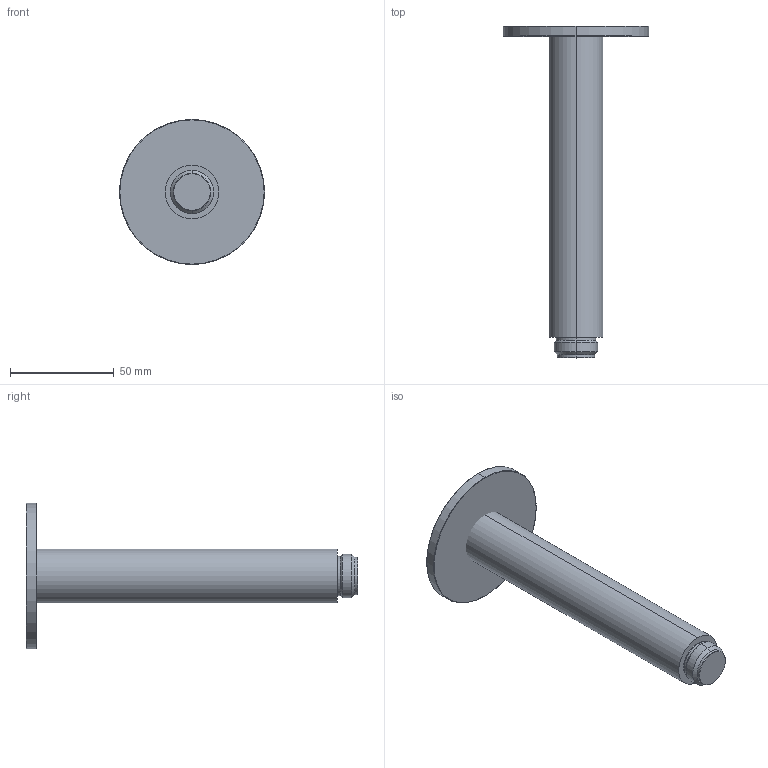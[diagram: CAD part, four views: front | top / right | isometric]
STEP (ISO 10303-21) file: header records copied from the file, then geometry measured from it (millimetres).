
FILE_DESCRIPTION((''),'2;1');
FILE_NAME('76618--00_SW0001','2026-10-06T10:35:02',('simi1'),(''),'CREO PARAMETRIC BY PTC INC, 2022244','CREO PARAMETRIC BY PTC INC, 2022244','');
FILE_SCHEMA(('CONFIG_CONTROL_DESIGN'));
Length unit declared in the file: millimetre
Products named in the file (1): 76618--00_SW0001
Bounding box: 70 x 160 x 70 mm (x, y, z)
Surface area: 23013.8 mm2 (no closed solid volume)
Topology: 0 solids, 3 shells, 27 faces, 50 edges, 28 vertices
Faces by surface type: cylinder 10, cone 8, plane 5, torus 4
Entity records: 700 total; most frequent: DIRECTION 136, CARTESIAN_POINT 105, ORIENTED_EDGE 98, AXIS2_PLACEMENT_3D 59, EDGE_CURVE 50, CIRCLE 32, VERTEX_POINT 28, EDGE_LOOP 27
